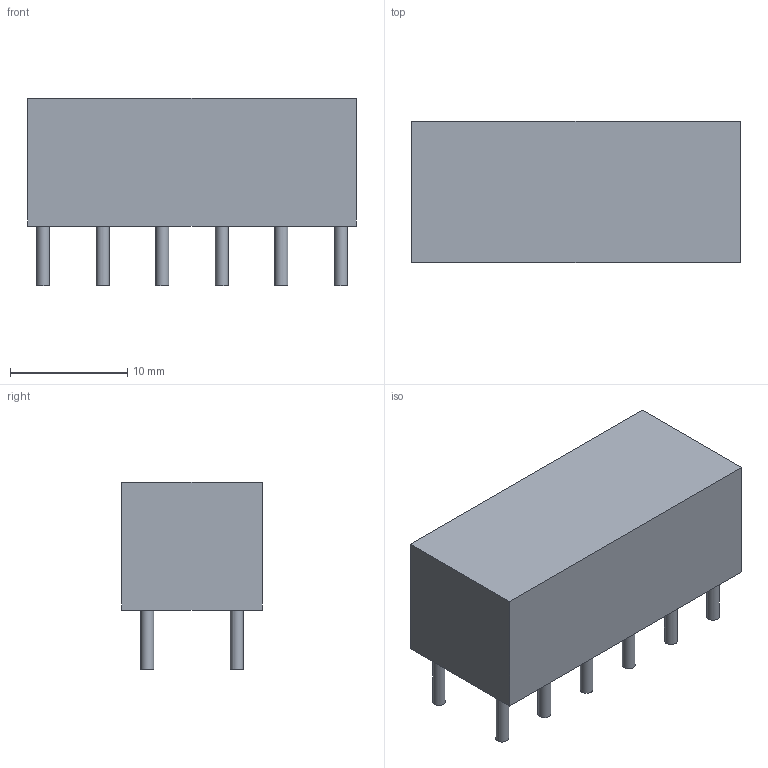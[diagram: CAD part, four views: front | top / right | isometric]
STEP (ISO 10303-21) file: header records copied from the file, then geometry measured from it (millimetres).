
FILE_DESCRIPTION(('FreeCAD Model'),'2;1');
FILE_NAME('/var/www/3D/0T/16576318.1.3.stp','2022-08-05T18:26:08',( 'Author'),(''),'Open CASCADE STEP processor 6.9','FreeCAD','Unknown' );
FILE_SCHEMA(('AUTOMOTIVE_DESIGN { 1 0 10303 214 1 1 1 1 }'));
Length unit declared in the file: millimetre
Products named in the file (3): ASSEMBLY; Body; Leads
Assembly tree (2 placements, depth 2):
  ASSEMBLY
    Body
    Leads
Bounding box: 28 x 12 x 16 mm (x, y, z)
Volume: 3720.6 mm3; surface area: 1778.3 mm2
Topology: 13 solids, 13 shells, 42 faces, 48 edges, 32 vertices
Faces by surface type: plane 30, cylinder 12
Full cylindrical faces by diameter (mm): 1.1 x12
Entity records: 1583 total; most frequent: DIRECTION 258, CARTESIAN_POINT 221, ORIENTED_EDGE 96, LINE 96, VECTOR 96, PCURVE 96, DEFINITIONAL_REPRESENTATION 96, AXIS2_PLACEMENT_3D 69
